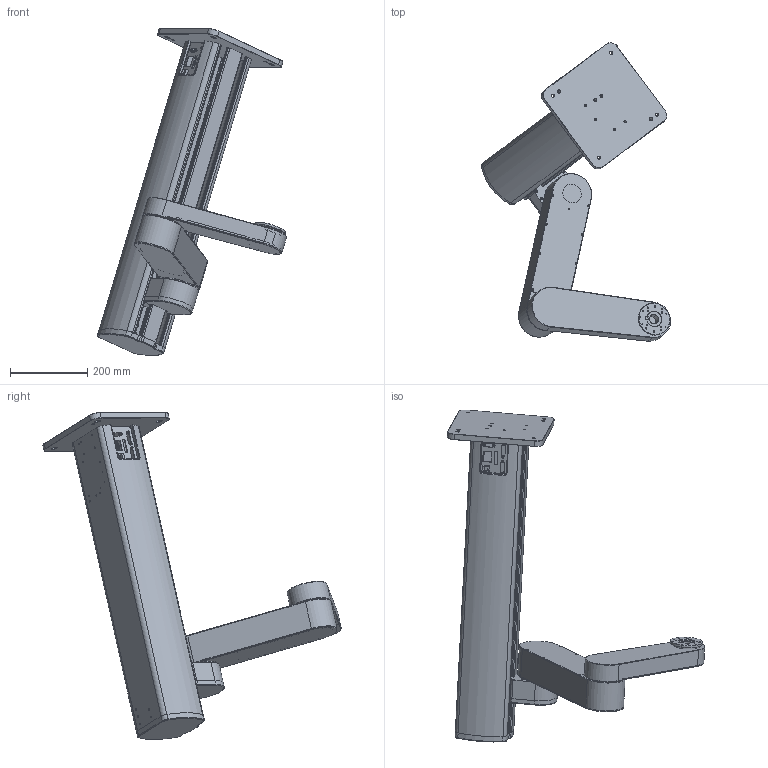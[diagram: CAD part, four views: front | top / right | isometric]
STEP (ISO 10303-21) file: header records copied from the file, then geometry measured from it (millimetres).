
FILE_DESCRIPTION(('CATIA V5 STEP Exchange'),'2;1');
FILE_NAME('F:\LYJ 工作文件\机械臂系列\Z-Arm 4160\V1.4 版本\A12 简图\简图\Z-Arm 4160C0.stp','2020-09-01T01:39:49+00:00',('none'),('none'),'CATIA Version 5 Release 20 GA (IN-10)','CATIA V5 STEP AP203','none');
FILE_SCHEMA(('CONFIG_CONTROL_DESIGN'));
Length unit declared in the file: millimetre
Products named in the file (1): Z-Arm 4160C0
Assembly tree (3 placements, depth 2):
  Z-Arm 4160C0
    #58
    #8748
    #13358
Bounding box: 490.72 x 773.97 x 848.48 mm (x, y, z)
Volume: 9585101 mm3; surface area: 1696609.8 mm2
Topology: 26 solids, 26 shells, 1361 faces, 3452 edges, 2174 vertices
Faces by surface type: cylinder 644, plane 461, cone 203, torus 30, sphere 20, bspline 3
Entity records: 39115 total; most frequent: CARTESIAN_POINT 8217, ORIENTED_EDGE 6748, DIRECTION 5227, EDGE_CURVE 3374, AXIS2_PLACEMENT_3D 2491, VERTEX_POINT 2174, VECTOR 1698, LINE 1698
